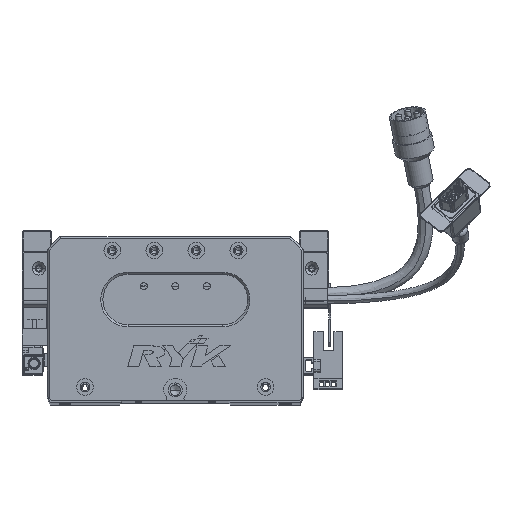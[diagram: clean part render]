
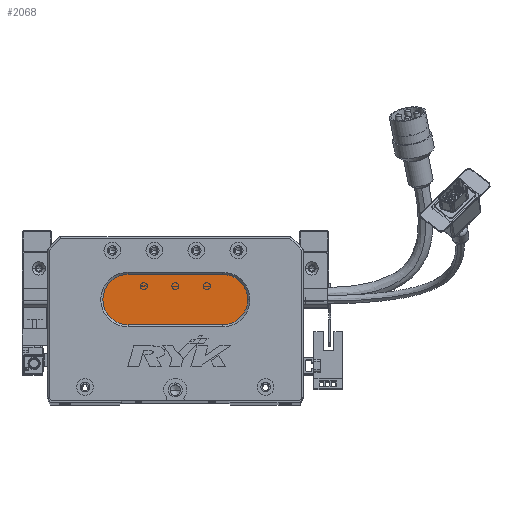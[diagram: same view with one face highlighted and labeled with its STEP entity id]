
A CAD part, top view. The second image highlights one B-rep face of the part: STEP entity #2068.
In plain terms, the highlighted planar face has unit normal (0, 0, 1) as drawn and (0, 0, -1) by its records, which use the part's own axes.
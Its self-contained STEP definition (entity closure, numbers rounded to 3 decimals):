
#1680 = PLANE ( 'NONE',  #29824 ) ;
#2068 = ADVANCED_FACE ( 'NONE', ( #43493 ), #1680, .T. ) ;
#2083 = CARTESIAN_POINT ( 'NONE',  ( 83.5, 60., 13. ) ) ;
#5560 = DIRECTION ( 'NONE',  ( 0., 0., -1. ) ) ;
#8284 = CARTESIAN_POINT ( 'NONE',  ( 83.5, 36., 13. ) ) ;
#10534 = CARTESIAN_POINT ( 'NONE',  ( 38.5, 48., 13. ) ) ;
#10842 = EDGE_CURVE ( 'NONE', #58378, #66046, #21625, .T. ) ;
#11548 = CARTESIAN_POINT ( 'NONE',  ( 38.5, 48., 13. ) ) ;
#13131 = ORIENTED_EDGE ( 'NONE', *, *, #19136, .T. ) ;
#13140 = CARTESIAN_POINT ( 'NONE',  ( 83.5, 48., 13. ) ) ;
#15531 = CARTESIAN_POINT ( 'NONE',  ( 26.5, 48., 13. ) ) ;
#19075 = DIRECTION ( 'NONE',  ( 0., 0., -1. ) ) ;
#19136 = EDGE_CURVE ( 'NONE', #62912, #41936, #36066, .T. ) ;
#20660 = DIRECTION ( 'NONE',  ( -1., 0., 0. ) ) ;
#21625 = CIRCLE ( 'NONE', #34713, 12. ) ;
#21703 = EDGE_CURVE ( 'NONE', #66046, #68720, #59909, .T. ) ;
#24773 = EDGE_LOOP ( 'NONE', ( #13131, #73827, #60416, #48314, #25045 ) ) ;
#25045 = ORIENTED_EDGE ( 'NONE', *, *, #35644, .T. ) ;
#25234 = DIRECTION ( 'NONE',  ( -1., 0., 0. ) ) ;
#25490 = CARTESIAN_POINT ( 'NONE',  ( 83.5, 48., 13. ) ) ;
#28789 = CARTESIAN_POINT ( 'NONE',  ( 38.5, 36., 13. ) ) ;
#29824 = AXIS2_PLACEMENT_3D ( 'NONE', #25490, #19075, #42615 ) ;
#30678 = DIRECTION ( 'NONE',  ( 0., 0., -1. ) ) ;
#31295 = AXIS2_PLACEMENT_3D ( 'NONE', #10534, #70191, #75653 ) ;
#33534 = LINE ( 'NONE', #66792, #67050 ) ;
#34149 = AXIS2_PLACEMENT_3D ( 'NONE', #13140, #30678, #25234 ) ;
#34713 = AXIS2_PLACEMENT_3D ( 'NONE', #11548, #5560, #46747 ) ;
#35644 = EDGE_CURVE ( 'NONE', #68720, #62912, #33534, .T. ) ;
#36066 = CIRCLE ( 'NONE', #34149, 12. ) ;
#41874 = VECTOR ( 'NONE', #20660, 1000. ) ;
#41936 = VERTEX_POINT ( 'NONE', #8284 ) ;
#42615 = DIRECTION ( 'NONE',  ( -1., 0., 0. ) ) ;
#43493 = FACE_OUTER_BOUND ( 'NONE', #24773, .T. ) ;
#45737 = CARTESIAN_POINT ( 'NONE',  ( 38.5, 60., 13. ) ) ;
#46747 = DIRECTION ( 'NONE',  ( -1., 0., 0. ) ) ;
#48314 = ORIENTED_EDGE ( 'NONE', *, *, #21703, .T. ) ;
#50205 = CARTESIAN_POINT ( 'NONE',  ( 83.5, 36., 13. ) ) ;
#56172 = EDGE_CURVE ( 'NONE', #41936, #58378, #73493, .T. ) ;
#58378 = VERTEX_POINT ( 'NONE', #28789 ) ;
#59909 = CIRCLE ( 'NONE', #31295, 12. ) ;
#60416 = ORIENTED_EDGE ( 'NONE', *, *, #10842, .T. ) ;
#62912 = VERTEX_POINT ( 'NONE', #2083 ) ;
#66046 = VERTEX_POINT ( 'NONE', #15531 ) ;
#66281 = DIRECTION ( 'NONE',  ( 1., 0., 0. ) ) ;
#66792 = CARTESIAN_POINT ( 'NONE',  ( 83.5, 60., 13. ) ) ;
#67050 = VECTOR ( 'NONE', #66281, 1000. ) ;
#68720 = VERTEX_POINT ( 'NONE', #45737 ) ;
#70191 = DIRECTION ( 'NONE',  ( 0., 0., -1. ) ) ;
#73493 = LINE ( 'NONE', #50205, #41874 ) ;
#73827 = ORIENTED_EDGE ( 'NONE', *, *, #56172, .T. ) ;
#75653 = DIRECTION ( 'NONE',  ( -1., 0., 0. ) ) ;
